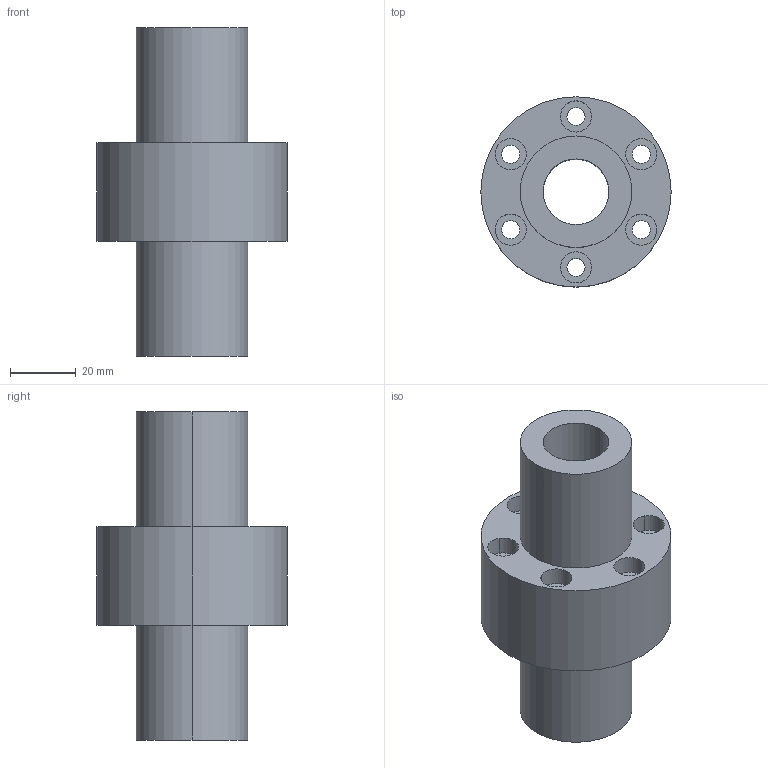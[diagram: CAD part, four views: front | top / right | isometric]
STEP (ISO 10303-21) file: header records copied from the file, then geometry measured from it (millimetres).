
FILE_DESCRIPTION((''),'2;1');
FILE_NAME('PRT0001','2008-04-03T',('yanyu'),(''),'PRO/ENGINEER BY PARAMETRIC TECHNOLOGY CORPORATION, 2005070','PRO/ENGINEER BY PARAMETRIC TECHNOLOGY CORPORATION, 2005070','');
FILE_SCHEMA(('CONFIG_CONTROL_DESIGN'));
Length unit declared in the file: millimetre
Products named in the file (1): PRT0001
Bounding box: 58 x 58 x 100 mm (x, y, z)
Volume: 105569.3 mm3; surface area: 27122.2 mm2
Topology: 1 solids, 1 shells, 42 faces, 96 edges, 64 vertices
Faces by surface type: cylinder 32, plane 10
Entity records: 1290 total; most frequent: DIRECTION 244, CARTESIAN_POINT 202, ORIENTED_EDGE 192, AXIS2_PLACEMENT_3D 106, EDGE_CURVE 96, VERTEX_POINT 64, EDGE_LOOP 64, CIRCLE 64
